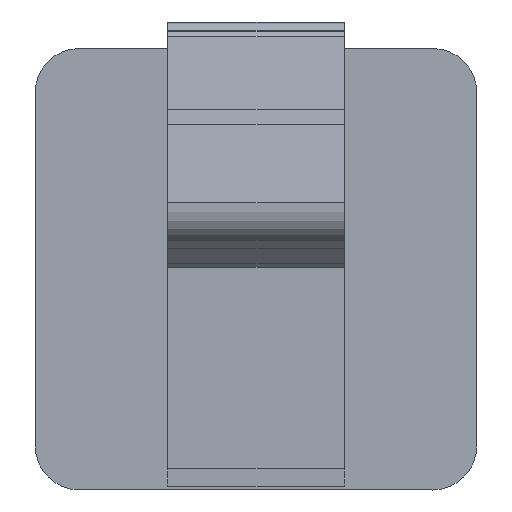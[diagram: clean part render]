
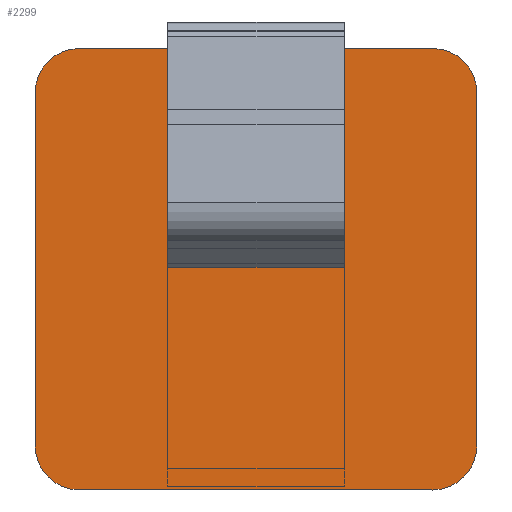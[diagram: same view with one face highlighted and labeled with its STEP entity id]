
A CAD part, left-side view. The second image highlights one B-rep face of the part: STEP entity #2299.
In plain terms, the highlighted planar face has unit normal (-1, 0, 0).
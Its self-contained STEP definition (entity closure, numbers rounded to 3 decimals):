
#16 = EDGE_CURVE ( 'NONE', #2266, #1463, #1260, .T. ) ;
#36 = CARTESIAN_POINT ( 'NONE',  ( -5299.807, -3869.5, -1075.42 ) ) ;
#44 = DIRECTION ( 'NONE',  ( 0., 1., 0. ) ) ;
#56 = EDGE_CURVE ( 'NONE', #795, #2128, #155, .T. ) ;
#112 = CIRCLE ( 'NONE', #1967, 2.5 ) ;
#148 = VERTEX_POINT ( 'NONE', #1771 ) ;
#155 = LINE ( 'NONE', #1286, #414 ) ;
#174 = CARTESIAN_POINT ( 'NONE',  ( -5299.807, -3859.5, -1085.42 ) ) ;
#225 = CIRCLE ( 'NONE', #919, 2.5 ) ;
#261 = VERTEX_POINT ( 'NONE', #2250 ) ;
#304 = VECTOR ( 'NONE', #535, 1000. ) ;
#343 = CARTESIAN_POINT ( 'NONE',  ( -5299.807, -3847., -1095.42 ) ) ;
#350 = VERTEX_POINT ( 'NONE', #1638 ) ;
#372 = DIRECTION ( 'NONE',  ( 0., 0., 1. ) ) ;
#401 = DIRECTION ( 'NONE',  ( -1., 0., 0. ) ) ;
#414 = VECTOR ( 'NONE', #372, 1000. ) ;
#451 = ORIENTED_EDGE ( 'NONE', *, *, #1018, .T. ) ;
#483 = DIRECTION ( 'NONE',  ( 0., 1., 0. ) ) ;
#532 = ORIENTED_EDGE ( 'NONE', *, *, #1414, .T. ) ;
#535 = DIRECTION ( 'NONE',  ( 0., 0., -1. ) ) ;
#568 = ORIENTED_EDGE ( 'NONE', *, *, #1899, .T. ) ;
#633 = CARTESIAN_POINT ( 'NONE',  ( -5299.807, -3847., -1075.42 ) ) ;
#639 = CIRCLE ( 'NONE', #2050, 2.5 ) ;
#734 = DIRECTION ( 'NONE',  ( -1., 0., 0. ) ) ;
#739 = CARTESIAN_POINT ( 'NONE',  ( -5299.807, -3867.525, -1072.92 ) ) ;
#786 = VERTEX_POINT ( 'NONE', #633 ) ;
#795 = VERTEX_POINT ( 'NONE', #1781 ) ;
#870 = AXIS2_PLACEMENT_3D ( 'NONE', #2315, #2067, #1487 ) ;
#919 = AXIS2_PLACEMENT_3D ( 'NONE', #1417, #1445, #483 ) ;
#989 = EDGE_CURVE ( 'NONE', #350, #261, #1329, .T. ) ;
#1018 = EDGE_CURVE ( 'NONE', #2128, #350, #112, .T. ) ;
#1076 = EDGE_LOOP ( 'NONE', ( #451, #1907, #568, #532, #1576, #1801, #1289, #1857 ) ) ;
#1165 = EDGE_CURVE ( 'NONE', #148, #795, #639, .T. ) ;
#1260 = CIRCLE ( 'NONE', #870, 2.5 ) ;
#1266 = CARTESIAN_POINT ( 'NONE',  ( -5299.807, -3869.5, -1095.42 ) ) ;
#1286 = CARTESIAN_POINT ( 'NONE',  ( -5299.807, -3872., -1087.67 ) ) ;
#1289 = ORIENTED_EDGE ( 'NONE', *, *, #1165, .T. ) ;
#1317 = VECTOR ( 'NONE', #1469, 1000. ) ;
#1322 = PLANE ( 'NONE',  #2464 ) ;
#1329 = LINE ( 'NONE', #739, #2304 ) ;
#1334 = DIRECTION ( 'NONE',  ( 0., -1., 0. ) ) ;
#1412 = DIRECTION ( 'NONE',  ( -1., 0., 0. ) ) ;
#1413 = CARTESIAN_POINT ( 'NONE',  ( -5299.807, -3872., -1075.42 ) ) ;
#1414 = EDGE_CURVE ( 'NONE', #786, #2266, #2044, .T. ) ;
#1417 = CARTESIAN_POINT ( 'NONE',  ( -5299.807, -3849.5, -1075.42 ) ) ;
#1445 = DIRECTION ( 'NONE',  ( -1., 0., 0. ) ) ;
#1463 = VERTEX_POINT ( 'NONE', #1900 ) ;
#1469 = DIRECTION ( 'NONE',  ( 0., -1., 0. ) ) ;
#1485 = DIRECTION ( 'NONE',  ( 0., 1., 0. ) ) ;
#1487 = DIRECTION ( 'NONE',  ( 0., 1., 0. ) ) ;
#1576 = ORIENTED_EDGE ( 'NONE', *, *, #16, .T. ) ;
#1638 = CARTESIAN_POINT ( 'NONE',  ( -5299.807, -3869.5, -1072.92 ) ) ;
#1771 = CARTESIAN_POINT ( 'NONE',  ( -5299.807, -3869.5, -1097.92 ) ) ;
#1781 = CARTESIAN_POINT ( 'NONE',  ( -5299.807, -3872., -1095.42 ) ) ;
#1801 = ORIENTED_EDGE ( 'NONE', *, *, #2174, .T. ) ;
#1857 = ORIENTED_EDGE ( 'NONE', *, *, #56, .T. ) ;
#1899 = EDGE_CURVE ( 'NONE', #261, #786, #225, .T. ) ;
#1900 = CARTESIAN_POINT ( 'NONE',  ( -5299.807, -3849.5, -1097.92 ) ) ;
#1907 = ORIENTED_EDGE ( 'NONE', *, *, #989, .T. ) ;
#1967 = AXIS2_PLACEMENT_3D ( 'NONE', #36, #1412, #44 ) ;
#2044 = LINE ( 'NONE', #2430, #304 ) ;
#2050 = AXIS2_PLACEMENT_3D ( 'NONE', #1266, #734, #1485 ) ;
#2067 = DIRECTION ( 'NONE',  ( -1., 0., 0. ) ) ;
#2091 = CARTESIAN_POINT ( 'NONE',  ( -5299.807, -3867.525, -1097.92 ) ) ;
#2096 = DIRECTION ( 'NONE',  ( 0., 1., 0. ) ) ;
#2128 = VERTEX_POINT ( 'NONE', #1413 ) ;
#2137 = FACE_OUTER_BOUND ( 'NONE', #1076, .T. ) ;
#2174 = EDGE_CURVE ( 'NONE', #1463, #148, #2459, .T. ) ;
#2250 = CARTESIAN_POINT ( 'NONE',  ( -5299.807, -3849.5, -1072.92 ) ) ;
#2266 = VERTEX_POINT ( 'NONE', #343 ) ;
#2299 = ADVANCED_FACE ( 'NONE', ( #2137 ), #1322, .T. ) ;
#2304 = VECTOR ( 'NONE', #2096, 1000. ) ;
#2315 = CARTESIAN_POINT ( 'NONE',  ( -5299.807, -3849.5, -1095.42 ) ) ;
#2430 = CARTESIAN_POINT ( 'NONE',  ( -5299.807, -3847., -1087.67 ) ) ;
#2459 = LINE ( 'NONE', #2091, #1317 ) ;
#2464 = AXIS2_PLACEMENT_3D ( 'NONE', #174, #401, #1334 ) ;
